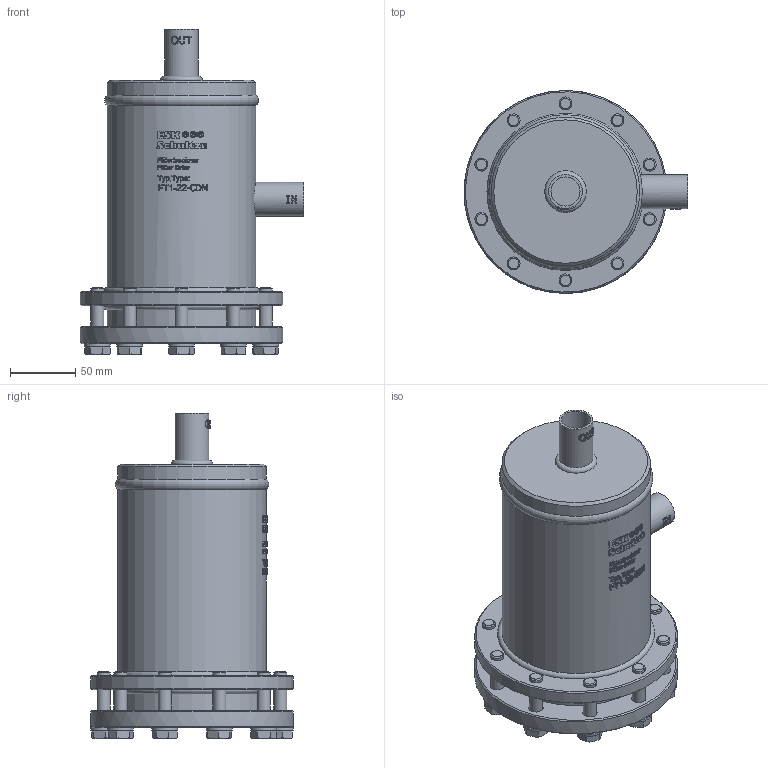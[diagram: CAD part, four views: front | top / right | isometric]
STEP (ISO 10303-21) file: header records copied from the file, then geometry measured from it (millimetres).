
FILE_DESCRIPTION(/* description */ (''),/* implementation_level */ '2;1');
FILE_NAME(/* name */ 'P:\FT\FT1-22-CDM\FT1-22-CDM.stp',/* time_stamp */ '2017-10-05T08:20:30+02:00',/* author */ ('neufeld'),/* organization */ (''),/* preprocessor_version */ 'ST-DEVELOPER v16.1',/* originating_system */ 'Autodesk Inventor 2016',/* authorisation */ '');
FILE_SCHEMA (('AUTOMOTIVE_DESIGN { 1 0 10303 214 3 1 1 }'));
Length unit declared in the file: millimetre
Products named in the file (2): FT1-22-CDM; FT1-22-CDM_1
Assembly tree (1 placements, depth 2):
  FT1-22-CDM_1
    FT1-22-CDM
Bounding box: 172.15 x 156 x 249.9 mm (x, y, z)
Volume: 2359395.9 mm3; surface area: 162495.9 mm2
Topology: 1 solids, 1 shells, 1228 faces, 3198 edges, 2109 vertices
Faces by surface type: plane 722, bspline 277, cylinder 150, cone 75, torus 4
Full cylindrical faces by diameter (mm): 10 x20, 10.5 x10, 11 x10, 15.6 x10, 20 x10, 22.4 x2, 26 x2, 114.3 x3, 115 x1, 115.2 x1, 156 x2
Entity records: 42441 total; most frequent: CARTESIAN_POINT 14173, ORIENTED_EDGE 6128, DIRECTION 5276, EDGE_CURVE 3064, VERTEX_POINT 2066, AXIS2_PLACEMENT_3D 1934, EDGE_LOOP 1476, LINE 1408
